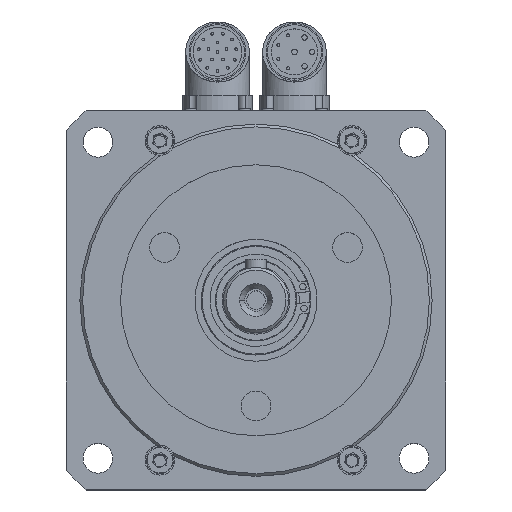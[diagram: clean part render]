
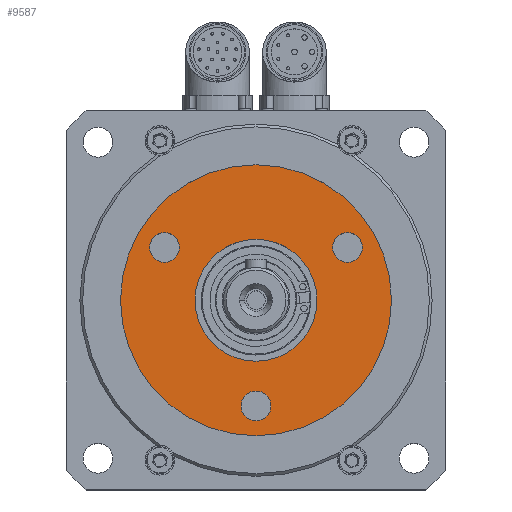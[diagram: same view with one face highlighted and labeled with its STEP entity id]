
A CAD part, top view. The second image highlights one B-rep face of the part: STEP entity #9587.
In plain terms, the highlighted planar face has unit normal (0, 0, 1).
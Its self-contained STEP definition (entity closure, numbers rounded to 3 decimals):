
#306 = EDGE_LOOP ( 'NONE', ( #1633, #1632 ) ) ;
#307 = EDGE_LOOP ( 'NONE', ( #1635, #1634 ) ) ;
#308 = EDGE_LOOP ( 'NONE', ( #1637, #1636 ) ) ;
#309 = EDGE_LOOP ( 'NONE', ( #1639, #1638 ) ) ;
#311 = EDGE_LOOP ( 'NONE', ( #1641, #1640 ) ) ;
#1632 = ORIENTED_EDGE ( 'NONE', *, *, #2051, .F. ) ;
#1633 = ORIENTED_EDGE ( 'NONE', *, *, #2572, .F. ) ;
#1634 = ORIENTED_EDGE ( 'NONE', *, *, #2196, .T. ) ;
#1635 = ORIENTED_EDGE ( 'NONE', *, *, #2368, .T. ) ;
#1636 = ORIENTED_EDGE ( 'NONE', *, *, #1920, .F. ) ;
#1637 = ORIENTED_EDGE ( 'NONE', *, *, #2560, .F. ) ;
#1638 = ORIENTED_EDGE ( 'NONE', *, *, #2555, .F. ) ;
#1639 = ORIENTED_EDGE ( 'NONE', *, *, #2532, .F. ) ;
#1640 = ORIENTED_EDGE ( 'NONE', *, *, #10969, .F. ) ;
#1641 = ORIENTED_EDGE ( 'NONE', *, *, #2530, .F. ) ;
#1920 = EDGE_CURVE ( 'NONE', #14286, #14268, #6118, .T. ) ;
#2051 = EDGE_CURVE ( 'NONE', #14265, #14244, #9854, .T. ) ;
#2196 = EDGE_CURVE ( 'NONE', #14272, #14267, #7175, .T. ) ;
#2368 = EDGE_CURVE ( 'NONE', #14267, #14272, #12801, .T. ) ;
#2530 = EDGE_CURVE ( 'NONE', #14276, #14284, #8015, .T. ) ;
#2532 = EDGE_CURVE ( 'NONE', #14280, #14273, #8017, .T. ) ;
#2555 = EDGE_CURVE ( 'NONE', #14273, #14280, #8052, .T. ) ;
#2560 = EDGE_CURVE ( 'NONE', #14268, #14286, #8059, .T. ) ;
#2572 = EDGE_CURVE ( 'NONE', #14244, #14265, #8075, .T. ) ;
#3059 = CARTESIAN_POINT ( 'NONE',  ( 22.5, 0., 21.5 ) ) ;
#3080 = CARTESIAN_POINT ( 'NONE',  ( -22.5, 0., 21.5 ) ) ;
#3082 = CARTESIAN_POINT ( 'NONE',  ( 50., 0., 21.5 ) ) ;
#3083 = CARTESIAN_POINT ( 'NONE',  ( 5.5, -39., 21.5 ) ) ;
#3087 = CARTESIAN_POINT ( 'NONE',  ( -50., 0., 21.5 ) ) ;
#3088 = CARTESIAN_POINT ( 'NONE',  ( 28.275, 19.5, 21.5 ) ) ;
#3091 = CARTESIAN_POINT ( 'NONE',  ( -28.275, 19.5, 21.5 ) ) ;
#3095 = CARTESIAN_POINT ( 'NONE',  ( 39.275, 19.5, 21.5 ) ) ;
#3099 = CARTESIAN_POINT ( 'NONE',  ( -39.275, 19.5, 21.5 ) ) ;
#3101 = CARTESIAN_POINT ( 'NONE',  ( -5.5, -39., 21.5 ) ) ;
#3403 = CARTESIAN_POINT ( 'NONE',  ( 0., -39., 21.5 ) ) ;
#3406 = DIRECTION ( 'NONE',  ( 0., 0., 1. ) ) ;
#3407 = DIRECTION ( 'NONE',  ( 1., 0., 0. ) ) ;
#3869 = CARTESIAN_POINT ( 'NONE',  ( -33.775, 19.5, 21.5 ) ) ;
#3876 = DIRECTION ( 'NONE',  ( 0., 0., 1. ) ) ;
#3877 = DIRECTION ( 'NONE',  ( 1., 0., 0. ) ) ;
#4831 = CIRCLE ( 'NONE', #5143, 5.5 ) ;
#5143 = AXIS2_PLACEMENT_3D ( 'NONE', #3869, #3876, #3877 ) ;
#6118 = CIRCLE ( 'NONE', #11064, 5.5 ) ;
#7175 = CIRCLE ( 'NONE', #11217, 50. ) ;
#7843 = CARTESIAN_POINT ( 'NONE',  ( 0., 0., 21.5 ) ) ;
#7844 = DIRECTION ( 'NONE',  ( 0., 0., 1. ) ) ;
#7845 = DIRECTION ( 'NONE',  ( 1., 0., 0. ) ) ;
#8015 = CIRCLE ( 'NONE', #11361, 5.5 ) ;
#8017 = CIRCLE ( 'NONE', #11357, 5.5 ) ;
#8052 = CIRCLE ( 'NONE', #11343, 5.5 ) ;
#8059 = CIRCLE ( 'NONE', #11326, 5.5 ) ;
#8075 = CIRCLE ( 'NONE', #11331, 22.5 ) ;
#8880 = CARTESIAN_POINT ( 'NONE',  ( 0., 50., 21.5 ) ) ;
#8881 = PLANE ( 'NONE',  #11683 ) ;
#8882 = DIRECTION ( 'NONE',  ( 0., 0., 1. ) ) ;
#8883 = DIRECTION ( 'NONE',  ( 1., 0., 0. ) ) ;
#9587 = ADVANCED_FACE ( 'NONE', ( #12377, #12373, #12376, #12369, #12371 ), #8881, .T. ) ;
#9854 = CIRCLE ( 'NONE', #11075, 22.5 ) ;
#10969 = EDGE_CURVE ( 'NONE', #14284, #14276, #4831, .T. ) ;
#11064 = AXIS2_PLACEMENT_3D ( 'NONE', #3403, #3406, #3407 ) ;
#11075 = AXIS2_PLACEMENT_3D ( 'NONE', #12522, #12528, #12529 ) ;
#11217 = AXIS2_PLACEMENT_3D ( 'NONE', #7843, #7844, #7845 ) ;
#11233 = AXIS2_PLACEMENT_3D ( 'NONE', #15208, #15214, #15215 ) ;
#11326 = AXIS2_PLACEMENT_3D ( 'NONE', #15477, #15486, #15487 ) ;
#11331 = AXIS2_PLACEMENT_3D ( 'NONE', #15512, #15520, #15521 ) ;
#11343 = AXIS2_PLACEMENT_3D ( 'NONE', #15460, #15474, #15475 ) ;
#11357 = AXIS2_PLACEMENT_3D ( 'NONE', #15408, #15414, #15415 ) ;
#11361 = AXIS2_PLACEMENT_3D ( 'NONE', #15398, #15409, #15410 ) ;
#11683 = AXIS2_PLACEMENT_3D ( 'NONE', #8880, #8882, #8883 ) ;
#12369 = FACE_OUTER_BOUND ( 'NONE', #307, .T. ) ;
#12371 = FACE_BOUND ( 'NONE', #306, .T. ) ;
#12373 = FACE_BOUND ( 'NONE', #309, .T. ) ;
#12376 = FACE_BOUND ( 'NONE', #308, .T. ) ;
#12377 = FACE_BOUND ( 'NONE', #311, .T. ) ;
#12522 = CARTESIAN_POINT ( 'NONE',  ( 0., 0., 21.5 ) ) ;
#12528 = DIRECTION ( 'NONE',  ( 0., 0., 1. ) ) ;
#12529 = DIRECTION ( 'NONE',  ( 1., 0., 0. ) ) ;
#12801 = CIRCLE ( 'NONE', #11233, 50. ) ;
#14244 = VERTEX_POINT ( 'NONE', #3059 ) ;
#14265 = VERTEX_POINT ( 'NONE', #3080 ) ;
#14267 = VERTEX_POINT ( 'NONE', #3082 ) ;
#14268 = VERTEX_POINT ( 'NONE', #3083 ) ;
#14272 = VERTEX_POINT ( 'NONE', #3087 ) ;
#14273 = VERTEX_POINT ( 'NONE', #3088 ) ;
#14276 = VERTEX_POINT ( 'NONE', #3091 ) ;
#14280 = VERTEX_POINT ( 'NONE', #3095 ) ;
#14284 = VERTEX_POINT ( 'NONE', #3099 ) ;
#14286 = VERTEX_POINT ( 'NONE', #3101 ) ;
#15208 = CARTESIAN_POINT ( 'NONE',  ( 0., 0., 21.5 ) ) ;
#15214 = DIRECTION ( 'NONE',  ( 0., 0., 1. ) ) ;
#15215 = DIRECTION ( 'NONE',  ( 1., 0., 0. ) ) ;
#15398 = CARTESIAN_POINT ( 'NONE',  ( -33.775, 19.5, 21.5 ) ) ;
#15408 = CARTESIAN_POINT ( 'NONE',  ( 33.775, 19.5, 21.5 ) ) ;
#15409 = DIRECTION ( 'NONE',  ( 0., 0., 1. ) ) ;
#15410 = DIRECTION ( 'NONE',  ( 1., 0., 0. ) ) ;
#15414 = DIRECTION ( 'NONE',  ( 0., 0., 1. ) ) ;
#15415 = DIRECTION ( 'NONE',  ( 1., 0., 0. ) ) ;
#15460 = CARTESIAN_POINT ( 'NONE',  ( 33.775, 19.5, 21.5 ) ) ;
#15474 = DIRECTION ( 'NONE',  ( 0., 0., 1. ) ) ;
#15475 = DIRECTION ( 'NONE',  ( 1., 0., 0. ) ) ;
#15477 = CARTESIAN_POINT ( 'NONE',  ( 0., -39., 21.5 ) ) ;
#15486 = DIRECTION ( 'NONE',  ( 0., 0., 1. ) ) ;
#15487 = DIRECTION ( 'NONE',  ( 1., 0., 0. ) ) ;
#15512 = CARTESIAN_POINT ( 'NONE',  ( 0., 0., 21.5 ) ) ;
#15520 = DIRECTION ( 'NONE',  ( 0., 0., 1. ) ) ;
#15521 = DIRECTION ( 'NONE',  ( 1., 0., 0. ) ) ;
